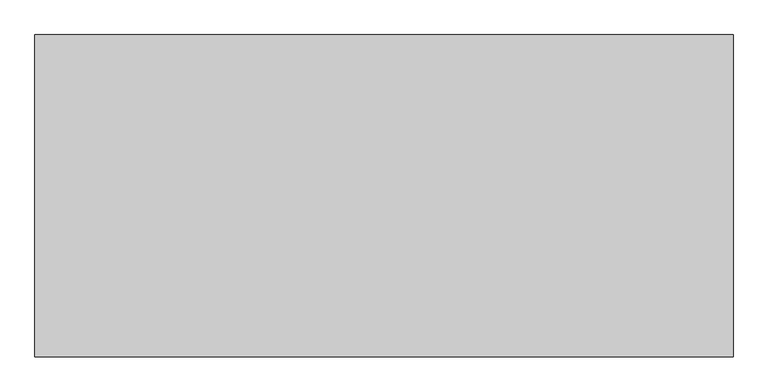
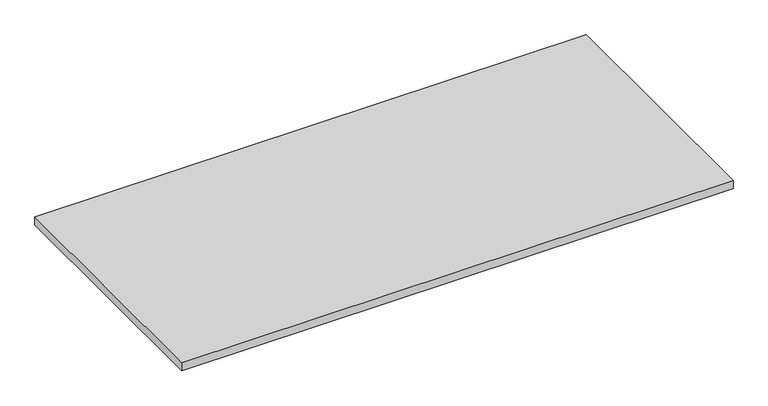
"""IFC4 building model written with IfcOpenShell, lengths in millimetres: furniture geometry, Bancada_balcao : Bancada cantina."""

from ifc_helpers import new_model, si_unit, frame, origin, place, context, project, spatial, polyline, outline, extrude, source, transform, mapped, element, save


def furniture_c3b57afc(model_context):
    return source(origin(), model_context, "Body", "SweptSolid", [
        extrude(outline(polyline([(694.7003264, 0.0), (694.7003264, -600.0), (-605.2996736, -600.0), (-605.2996736, 0.0), (694.7003264, 0.0)])), frame((0.0, 0.0, 880.0), z_axis=(0.0, 0.0, 1.0), x_axis=(1.0, 0.0, 0.0)), (0.0, 0.0, 1.0), 20.0),
    ])


if __name__ == "__main__":
    model = new_model("IFC4")
    model_context = context("Model", 3, world=origin())
    ifc_project = project(units=[si_unit("LENGTHUNIT", "METRE", prefix="MILLI")], contexts=[model_context])
    site = spatial("IfcSite", under=ifc_project)
    building = spatial("IfcBuilding", under=site)
    placement = place(None, origin())
    furniture_shape = furniture_c3b57afc(model_context)
    element("IfcFurniture", 1, ObjectType="Bancada_balcao : Bancada cantina", at=placement, inside=building, context=model_context, shape_type="MappedRepresentation", body=[
        mapped(furniture_shape, transform((0.0, 0.0, 0.0), x_axis=(1.0, 0.0, 0.0), y_axis=(0.0, 1.0, 0.0), z_axis=(0.0, 0.0, 1.0))),
    ])
    save(model, "model.ifc")
